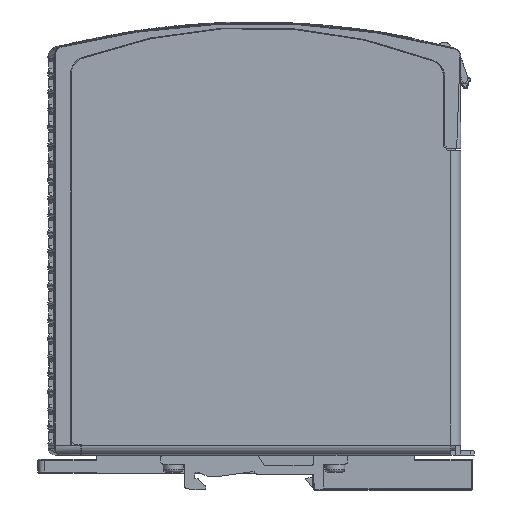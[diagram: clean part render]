
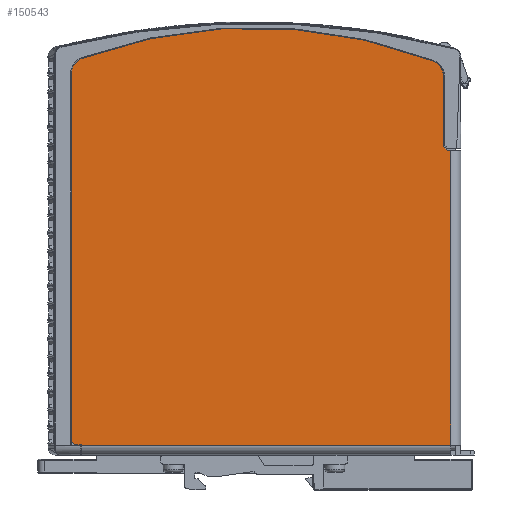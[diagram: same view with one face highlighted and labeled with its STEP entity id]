
A CAD part, left-side view. The second image highlights one B-rep face of the part: STEP entity #150543.
In plain terms, the highlighted planar face has unit normal (-1, 0, 0).
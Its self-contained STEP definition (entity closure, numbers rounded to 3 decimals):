
#2204 = CARTESIAN_POINT ( 'NONE',  ( -39.5, 51.9, 3. ) ) ;
#2381 = VECTOR ( 'NONE', #141577, 1000. ) ;
#4685 = CARTESIAN_POINT ( 'NONE',  ( -39.5, -51.85, 113.665 ) ) ;
#9753 = EDGE_CURVE ( 'NONE', #260981, #174181, #171590, .T. ) ;
#10990 = LINE ( 'NONE', #223842, #274012 ) ;
#19057 = LINE ( 'NONE', #103959, #245245 ) ;
#20650 = ORIENTED_EDGE ( 'NONE', *, *, #184172, .F. ) ;
#36864 = EDGE_CURVE ( 'NONE', #135941, #156939, #10990, .T. ) ;
#37367 = VERTEX_POINT ( 'NONE', #119163 ) ;
#39868 = DIRECTION ( 'NONE',  ( -1., 0., 0. ) ) ;
#40911 = CARTESIAN_POINT ( 'NONE',  ( -39.5, 51.9, 3.1 ) ) ;
#42702 = DIRECTION ( 'NONE',  ( 0., 0., -1. ) ) ;
#45597 = VECTOR ( 'NONE', #145254, 1000. ) ;
#46160 = CARTESIAN_POINT ( 'NONE',  ( -39.5, 51.9, 3.1 ) ) ;
#50050 = EDGE_CURVE ( 'NONE', #98233, #135941, #250539, .T. ) ;
#52180 = ORIENTED_EDGE ( 'NONE', *, *, #247338, .T. ) ;
#52237 = LINE ( 'NONE', #223309, #201639 ) ;
#56508 = CARTESIAN_POINT ( 'NONE',  ( -39.5, 49.9, 114.396 ) ) ;
#57641 = DIRECTION ( 'NONE',  ( 0., -0.707, -0.707 ) ) ;
#58082 = VERTEX_POINT ( 'NONE', #100725 ) ;
#63650 = ORIENTED_EDGE ( 'NONE', *, *, #225885, .T. ) ;
#65290 = VERTEX_POINT ( 'NONE', #250597 ) ;
#67438 = ORIENTED_EDGE ( 'NONE', *, *, #102813, .T. ) ;
#67887 = VERTEX_POINT ( 'NONE', #128696 ) ;
#77091 = EDGE_CURVE ( 'NONE', #156939, #145615, #247790, .T. ) ;
#83843 = EDGE_CURVE ( 'NONE', #37367, #174181, #228699, .T. ) ;
#84385 = DIRECTION ( 'NONE',  ( 0., 0., -1. ) ) ;
#87018 = AXIS2_PLACEMENT_3D ( 'NONE', #215285, #275228, #254373 ) ;
#87600 = ORIENTED_EDGE ( 'NONE', *, *, #9753, .F. ) ;
#89611 = DIRECTION ( 'NONE',  ( 0., 0., -1. ) ) ;
#89830 = LINE ( 'NONE', #116156, #259057 ) ;
#91197 = DIRECTION ( 'NONE',  ( 0., 0., 1. ) ) ;
#97089 = ORIENTED_EDGE ( 'NONE', *, *, #50050, .T. ) ;
#97736 = EDGE_CURVE ( 'NONE', #260938, #37367, #19057, .T. ) ;
#98233 = VERTEX_POINT ( 'NONE', #174435 ) ;
#100725 = CARTESIAN_POINT ( 'NONE',  ( -39.5, 51.621, 119.09 ) ) ;
#101661 = DIRECTION ( 'NONE',  ( 0., 0., 1. ) ) ;
#102813 = EDGE_CURVE ( 'NONE', #209175, #98233, #52237, .T. ) ;
#103959 = CARTESIAN_POINT ( 'NONE',  ( -39.5, 54.9, 114.396 ) ) ;
#104695 = ORIENTED_EDGE ( 'NONE', *, *, #163598, .T. ) ;
#107544 = CARTESIAN_POINT ( 'NONE',  ( -39.5, 53.9, 3.1 ) ) ;
#107933 = CIRCLE ( 'NONE', #143259, 150. ) ;
#109517 = AXIS2_PLACEMENT_3D ( 'NONE', #4685, #154921, #89611 ) ;
#116156 = CARTESIAN_POINT ( 'NONE',  ( -39.5, 51.9, 3.1 ) ) ;
#119163 = CARTESIAN_POINT ( 'NONE',  ( -39.5, 54.9, 4.1 ) ) ;
#127400 = CARTESIAN_POINT ( 'NONE',  ( -39.5, 0., -21.748 ) ) ;
#128688 = AXIS2_PLACEMENT_3D ( 'NONE', #56508, #136170, #248516 ) ;
#128696 = CARTESIAN_POINT ( 'NONE',  ( -39.5, -53.638, 118.334 ) ) ;
#129022 = VECTOR ( 'NONE', #101661, 1000. ) ;
#132351 = CARTESIAN_POINT ( 'NONE',  ( -39.5, -59., 91.4 ) ) ;
#135941 = VERTEX_POINT ( 'NONE', #132351 ) ;
#136170 = DIRECTION ( 'NONE',  ( -1., 0., 0. ) ) ;
#137825 = DIRECTION ( 'NONE',  ( 0., 0.707, 0.707 ) ) ;
#141577 = DIRECTION ( 'NONE',  ( 0., 0., 1. ) ) ;
#143259 = AXIS2_PLACEMENT_3D ( 'NONE', #127400, #39868, #84385 ) ;
#144846 = EDGE_LOOP ( 'NONE', ( #97089, #164730, #248356, #104695, #52180, #149772, #63650, #170098, #184235, #87600, #20650, #67438 ) ) ;
#145254 = DIRECTION ( 'NONE',  ( 0., 1., 0. ) ) ;
#145615 = VERTEX_POINT ( 'NONE', #197644 ) ;
#149182 = CARTESIAN_POINT ( 'NONE',  ( -39.5, 54.9, 114.396 ) ) ;
#149772 = ORIENTED_EDGE ( 'NONE', *, *, #233623, .T. ) ;
#150543 = ADVANCED_FACE ( 'NONE', ( #255724 ), #190309, .F. ) ;
#154921 = DIRECTION ( 'NONE',  ( -1., 0., 0. ) ) ;
#156939 = VERTEX_POINT ( 'NONE', #178818 ) ;
#162719 = CIRCLE ( 'NONE', #109517, 5. ) ;
#163598 = EDGE_CURVE ( 'NONE', #145615, #65290, #265524, .T. ) ;
#164730 = ORIENTED_EDGE ( 'NONE', *, *, #36864, .T. ) ;
#165611 = CARTESIAN_POINT ( 'NONE',  ( -39.5, -59., 3. ) ) ;
#170098 = ORIENTED_EDGE ( 'NONE', *, *, #97736, .T. ) ;
#171590 = LINE ( 'NONE', #40911, #45597 ) ;
#174181 = VERTEX_POINT ( 'NONE', #107544 ) ;
#174435 = CARTESIAN_POINT ( 'NONE',  ( -39.5, -59., 3. ) ) ;
#178818 = CARTESIAN_POINT ( 'NONE',  ( -39.5, -58.05, 91.4 ) ) ;
#184172 = EDGE_CURVE ( 'NONE', #209175, #260981, #89830, .T. ) ;
#184235 = ORIENTED_EDGE ( 'NONE', *, *, #83843, .T. ) ;
#190309 = PLANE ( 'NONE',  #87018 ) ;
#197644 = CARTESIAN_POINT ( 'NONE',  ( -39.5, -56.85, 92.6 ) ) ;
#201639 = VECTOR ( 'NONE', #261046, 1000. ) ;
#201831 = CARTESIAN_POINT ( 'NONE',  ( -39.5, -58.05, 91.4 ) ) ;
#206488 = CARTESIAN_POINT ( 'NONE',  ( -39.5, 54.9, 4.1 ) ) ;
#209175 = VERTEX_POINT ( 'NONE', #2204 ) ;
#215285 = CARTESIAN_POINT ( 'NONE',  ( -39.5, 58.4, 0. ) ) ;
#223309 = CARTESIAN_POINT ( 'NONE',  ( -39.5, 58.4, 3. ) ) ;
#223842 = CARTESIAN_POINT ( 'NONE',  ( -39.5, -58.05, 91.4 ) ) ;
#225885 = EDGE_CURVE ( 'NONE', #58082, #260938, #253313, .T. ) ;
#228699 = LINE ( 'NONE', #206488, #268455 ) ;
#231497 = VECTOR ( 'NONE', #137825, 1000. ) ;
#233623 = EDGE_CURVE ( 'NONE', #67887, #58082, #107933, .T. ) ;
#244655 = CARTESIAN_POINT ( 'NONE',  ( -39.5, -56.85, 113.665 ) ) ;
#245245 = VECTOR ( 'NONE', #42702, 1000. ) ;
#247338 = EDGE_CURVE ( 'NONE', #65290, #67887, #162719, .T. ) ;
#247790 = LINE ( 'NONE', #201831, #231497 ) ;
#248356 = ORIENTED_EDGE ( 'NONE', *, *, #77091, .T. ) ;
#248516 = DIRECTION ( 'NONE',  ( 0., 0., -1. ) ) ;
#250539 = LINE ( 'NONE', #165611, #129022 ) ;
#250597 = CARTESIAN_POINT ( 'NONE',  ( -39.5, -56.85, 113.665 ) ) ;
#253313 = CIRCLE ( 'NONE', #128688, 5. ) ;
#254373 = DIRECTION ( 'NONE',  ( 0., 0., -1. ) ) ;
#255724 = FACE_OUTER_BOUND ( 'NONE', #144846, .T. ) ;
#259057 = VECTOR ( 'NONE', #91197, 1000. ) ;
#260938 = VERTEX_POINT ( 'NONE', #149182 ) ;
#260981 = VERTEX_POINT ( 'NONE', #46160 ) ;
#261046 = DIRECTION ( 'NONE',  ( 0., -1., 0. ) ) ;
#265524 = LINE ( 'NONE', #244655, #2381 ) ;
#268429 = DIRECTION ( 'NONE',  ( 0., 1., 0. ) ) ;
#268455 = VECTOR ( 'NONE', #57641, 1000. ) ;
#274012 = VECTOR ( 'NONE', #268429, 1000. ) ;
#275228 = DIRECTION ( 'NONE',  ( 1., 0., 0. ) ) ;
